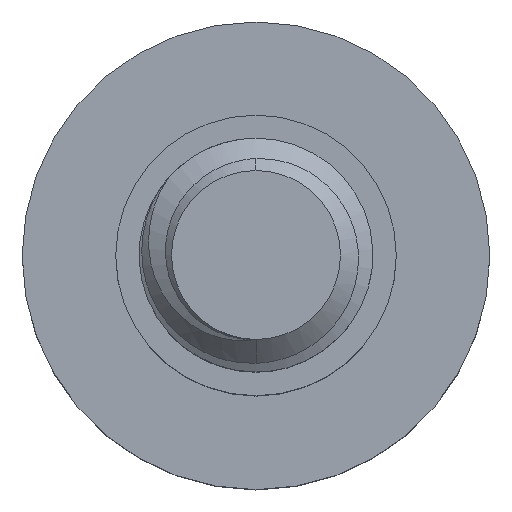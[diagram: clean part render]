
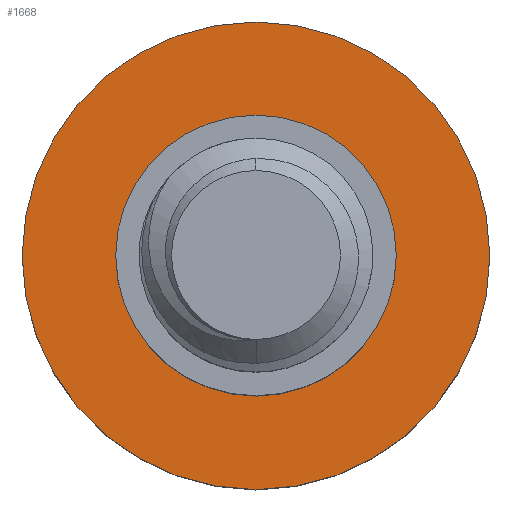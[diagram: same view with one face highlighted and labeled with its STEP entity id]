
A CAD part, top view. The second image highlights one B-rep face of the part: STEP entity #1668.
In plain terms, the highlighted planar face has unit normal (0, 0, 1).
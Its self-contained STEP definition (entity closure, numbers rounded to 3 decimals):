
#44 = DIRECTION ( 'NONE',  ( -1., 0., 0. ) ) ;
#82 = AXIS2_PLACEMENT_3D ( 'NONE', #674, #1424, #516 ) ;
#119 = DIRECTION ( 'NONE',  ( -1., 0., 0. ) ) ;
#169 = DIRECTION ( 'NONE',  ( -1., 0., 0. ) ) ;
#190 = CARTESIAN_POINT ( 'NONE',  ( 5., 0., -4. ) ) ;
#211 = EDGE_LOOP ( 'NONE', ( #2381, #813 ) ) ;
#234 = EDGE_CURVE ( 'NONE', #500, #445, #1775, .T. ) ;
#253 = CARTESIAN_POINT ( 'NONE',  ( 0., 0., -4. ) ) ;
#297 = DIRECTION ( 'NONE',  ( 0., 0., -1. ) ) ;
#351 = CIRCLE ( 'NONE', #2315, 3. ) ;
#367 = CARTESIAN_POINT ( 'NONE',  ( 3., 0., -4. ) ) ;
#378 = PLANE ( 'NONE',  #1153 ) ;
#445 = VERTEX_POINT ( 'NONE', #190 ) ;
#500 = VERTEX_POINT ( 'NONE', #1976 ) ;
#516 = DIRECTION ( 'NONE',  ( -1., 0., 0. ) ) ;
#566 = ORIENTED_EDGE ( 'NONE', *, *, #234, .F. ) ;
#640 = CIRCLE ( 'NONE', #948, 3. ) ;
#674 = CARTESIAN_POINT ( 'NONE',  ( 0., 0., -4. ) ) ;
#701 = CARTESIAN_POINT ( 'NONE',  ( 0., 0., -4. ) ) ;
#813 = ORIENTED_EDGE ( 'NONE', *, *, #2319, .T. ) ;
#827 = EDGE_CURVE ( 'NONE', #1170, #1653, #351, .T. ) ;
#943 = EDGE_CURVE ( 'NONE', #445, #500, #2006, .T. ) ;
#948 = AXIS2_PLACEMENT_3D ( 'NONE', #701, #1427, #169 ) ;
#1001 = EDGE_LOOP ( 'NONE', ( #1555, #566 ) ) ;
#1130 = DIRECTION ( 'NONE',  ( 0., 0., -1. ) ) ;
#1153 = AXIS2_PLACEMENT_3D ( 'NONE', #1490, #2025, #2386 ) ;
#1170 = VERTEX_POINT ( 'NONE', #1637 ) ;
#1424 = DIRECTION ( 'NONE',  ( 0., 0., -1. ) ) ;
#1427 = DIRECTION ( 'NONE',  ( 0., 0., -1. ) ) ;
#1490 = CARTESIAN_POINT ( 'NONE',  ( 0., 0., -4. ) ) ;
#1555 = ORIENTED_EDGE ( 'NONE', *, *, #943, .F. ) ;
#1635 = FACE_OUTER_BOUND ( 'NONE', #1001, .T. ) ;
#1637 = CARTESIAN_POINT ( 'NONE',  ( -3., 0., -4. ) ) ;
#1653 = VERTEX_POINT ( 'NONE', #367 ) ;
#1668 = ADVANCED_FACE ( 'NONE', ( #2049, #1635 ), #378, .F. ) ;
#1775 = CIRCLE ( 'NONE', #82, 5. ) ;
#1777 = AXIS2_PLACEMENT_3D ( 'NONE', #253, #1130, #44 ) ;
#1976 = CARTESIAN_POINT ( 'NONE',  ( -5., 0., -4. ) ) ;
#2006 = CIRCLE ( 'NONE', #1777, 5. ) ;
#2025 = DIRECTION ( 'NONE',  ( 0., 0., -1. ) ) ;
#2049 = FACE_BOUND ( 'NONE', #211, .T. ) ;
#2109 = CARTESIAN_POINT ( 'NONE',  ( 0., 0., -4. ) ) ;
#2315 = AXIS2_PLACEMENT_3D ( 'NONE', #2109, #297, #119 ) ;
#2319 = EDGE_CURVE ( 'NONE', #1653, #1170, #640, .T. ) ;
#2381 = ORIENTED_EDGE ( 'NONE', *, *, #827, .T. ) ;
#2386 = DIRECTION ( 'NONE',  ( -1., 0., 0. ) ) ;
